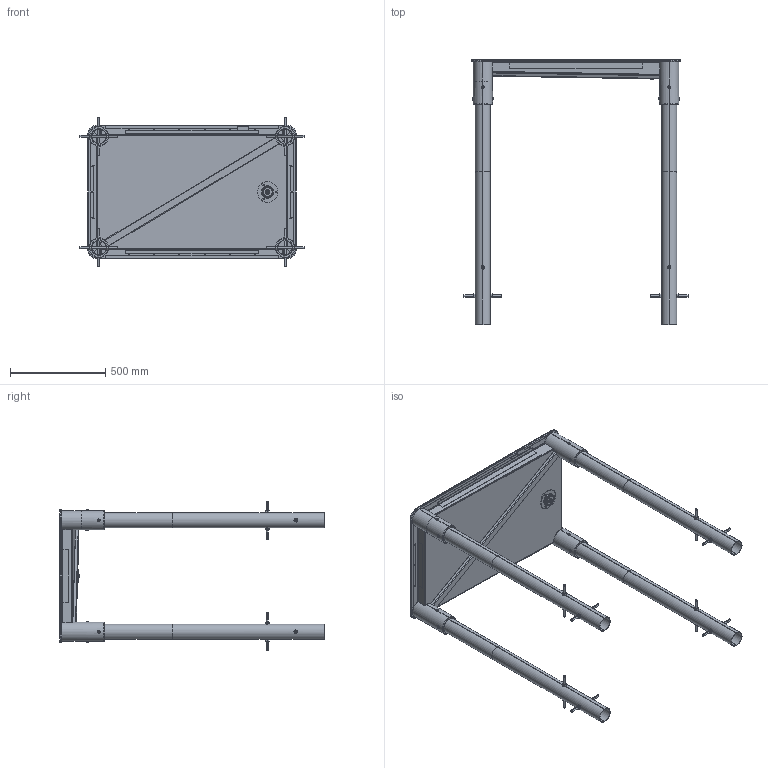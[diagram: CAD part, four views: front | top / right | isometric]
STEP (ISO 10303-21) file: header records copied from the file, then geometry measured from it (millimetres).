
FILE_DESCRIPTION (( 'STEP AP214' ), '1' );
FILE_NAME ('570.202.030.012 - Mud pool 59cm CA.STEP', '2021-03-25T08:23:14', ( '' ), ( '' ), 'SwSTEP 2.0', 'SolidWorks 2018', '' );
FILE_SCHEMA (( 'AUTOMOTIVE_DESIGN' ));
Length unit declared in the file: millimetre
Products named in the file (1): 570.202.030.012 - Mud pool 59cm CA
Bounding box: 1178 x 1391.1 x 785 mm (x, y, z)
Surface area: 5302605.1 mm2 (no closed solid volume)
Topology: 0 solids, 179 shells, 755 faces, 2668 edges, 1938 vertices
Faces by surface type: plane 288, cylinder 238, bspline 86, torus 64, cone 47, sphere 32
Entity records: 46399 total; most frequent: CARTESIAN_POINT 16612, DIRECTION 4500, ORIENTED_EDGE 3729, EDGE_CURVE 2660, VERTEX_POINT 1938, AXIS2_PLACEMENT_3D 1788, CIRCLE 1118, LINE 924
